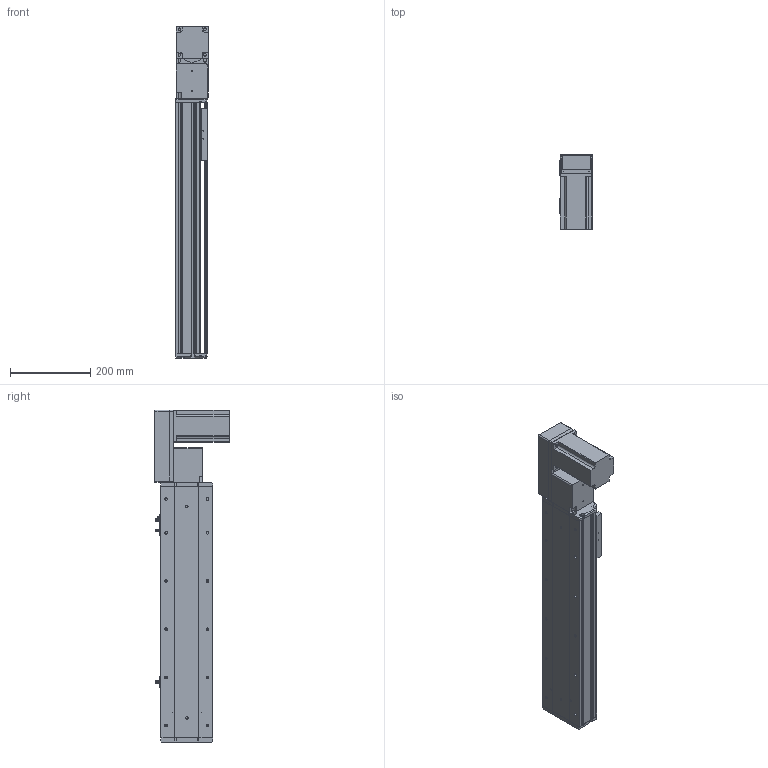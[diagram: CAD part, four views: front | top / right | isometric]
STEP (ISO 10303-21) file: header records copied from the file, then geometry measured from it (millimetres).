
FILE_DESCRIPTION (( 'STEP AP214' ), '1' );
FILE_NAME ('KSD130B-S400-MRB-CM .STEP', '2019-09-21T06:32:41', ( '微软用户' ), ( '微软中国' ), 'SwSTEP 2.0', 'SolidWorks 2014', '' );
FILE_SCHEMA (( 'AUTOMOTIVE_DESIGN' ));
Length unit declared in the file: millimetre
Products named in the file (12): 覜茼え100遵圉猾敕; U倰嫖萇EEㄜSX672; 130宽盖板半封闭同步带-400行程; 130宽马达安装板同步带右-改镜向_默认<按加工>; 130宽马达安装板同步带半封闭; 130宽同步带安装座半封闭; 130宽端盖同步带半封闭; 130宽底板半封闭同步带-400行程; KSD130B-S400-MRB-CM ; 台达ECMA－C20807AS伺服电机; 130宽模组保护罩上下左右折-同步带; 130宽模组马达安装板连板左右折同步带
Assembly tree (13 placements, depth 2):
  KSD130B-S400-MRB-CM 
    130宽底板半封闭同步带-400行程
    130宽端盖同步带半封闭
    130宽同步带安装座半封闭
    130宽马达安装板同步带半封闭
    130宽马达安装板同步带右-改镜向_默认<按加工>
    130宽盖板半封闭同步带-400行程
    U倰嫖萇EEㄜSX672  x3
    覜茼え100遵圉猾敕
    130宽模组马达安装板连板左右折同步带
    130宽模组保护罩上下左右折-同步带
    台达ECMA－C20807AS伺服电机
Bounding box: 81 x 184.8 x 827 mm (x, y, z)
Volume: 3369467.6 mm3; surface area: 865093.9 mm2
Topology: 14 solids, 14 shells, 1389 faces, 3901 edges, 2511 vertices
Faces by surface type: cylinder 648, plane 606, cone 135
Entity records: 44247 total; most frequent: CARTESIAN_POINT 7892, DIRECTION 6795, ORIENTED_EDGE 6518, EDGE_CURVE 3259, AXIS2_PLACEMENT_3D 2454, VERTEX_POINT 2135, LINE 1887, VECTOR 1887
